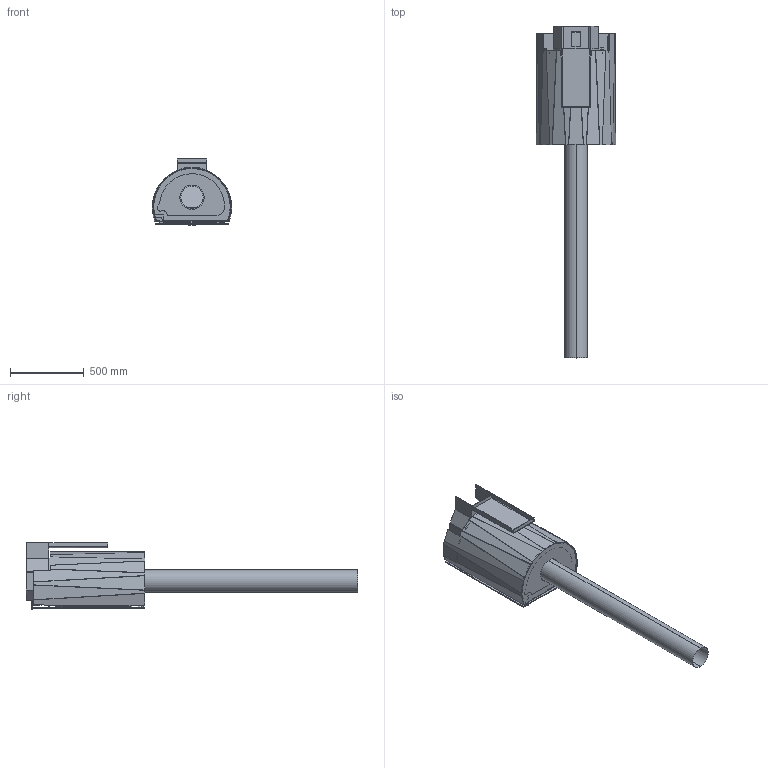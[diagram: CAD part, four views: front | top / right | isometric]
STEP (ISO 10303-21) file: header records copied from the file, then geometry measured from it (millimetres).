
FILE_DESCRIPTION (( 'STEP AP214' ), '1' );
FILE_NAME ('Leenders Lynne.STEP', '2022-03-22T08:25:03', ( '' ), ( '' ), 'SwSTEP 2.0', 'SolidWorks 2022', '' );
FILE_SCHEMA (( 'AUTOMOTIVE_DESIGN' ));
Length unit declared in the file: millimetre
Products named in the file (1): Leenders Lynne
Bounding box: 536.77 x 2248 x 449.7 mm (x, y, z)
Volume: 24396288.5 mm3; surface area: 9103146.8 mm2
Topology: 39 solids, 39 shells, 2006 faces, 4921 edges, 2942 vertices
Faces by surface type: plane 960, cylinder 665, bspline 285, sphere 62, torus 34
Entity records: 72322 total; most frequent: CARTESIAN_POINT 27121, ORIENTED_EDGE 9756, DIRECTION 8714, EDGE_CURVE 4878, VERTEX_POINT 2936, LINE 2920, VECTOR 2920, AXIS2_PLACEMENT_3D 2897
